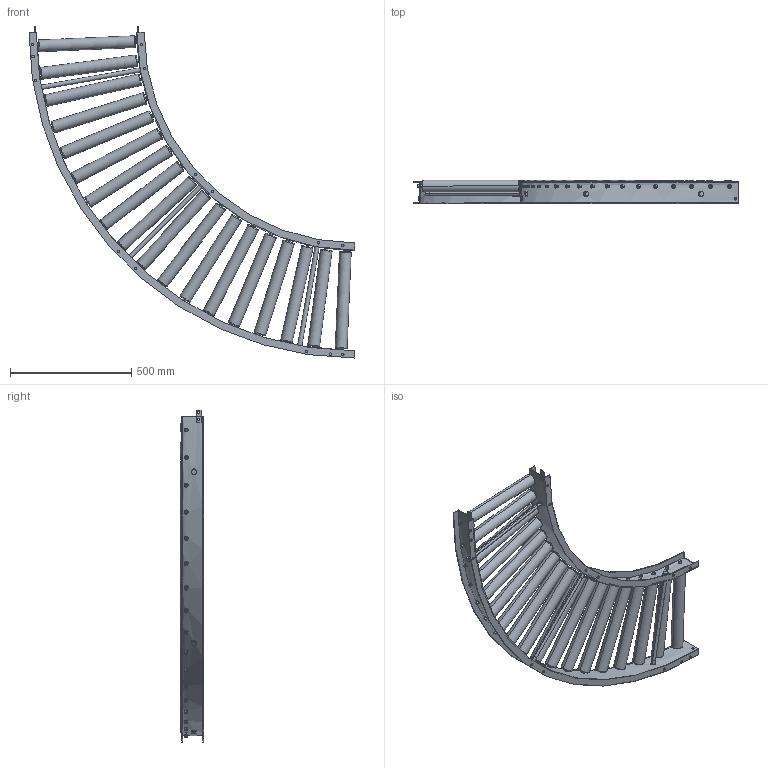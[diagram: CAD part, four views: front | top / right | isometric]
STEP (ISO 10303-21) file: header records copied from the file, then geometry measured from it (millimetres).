
FILE_DESCRIPTION (( 'STEP AP203' ), '1' );
FILE_NAME ('R-4832_C.step', '2024-03-15T02:32:59', ( '' ), ( '' ), 'SwSTEP 2.0', 'SolidWorks 2023', '' );
FILE_SCHEMA (( 'CONFIG_CONTROL_DESIGN' ));
Length unit declared in the file: millimetre
Products named in the file (1): R-4832_C
Bounding box: 1345 x 95.8 x 1370.1 mm (x, y, z)
Volume: 14618704.9 mm3; surface area: 3136691.9 mm2
Topology: 55 solids, 55 shells, 820 faces, 1896 edges, 1228 vertices
Faces by surface type: cylinder 406, plane 306, torus 72, cone 36
Entity records: 30605 total; most frequent: CARTESIAN_POINT 11349, DIRECTION 4102, ORIENTED_EDGE 3792, EDGE_CURVE 1896, AXIS2_PLACEMENT_3D 1701, VERTEX_POINT 1228, EDGE_LOOP 1068, CIRCLE 880
